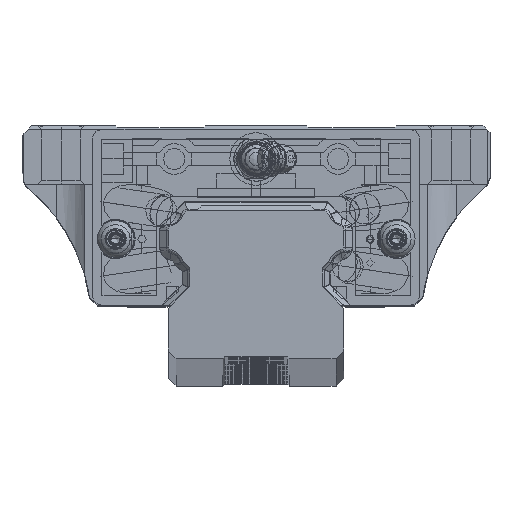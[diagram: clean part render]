
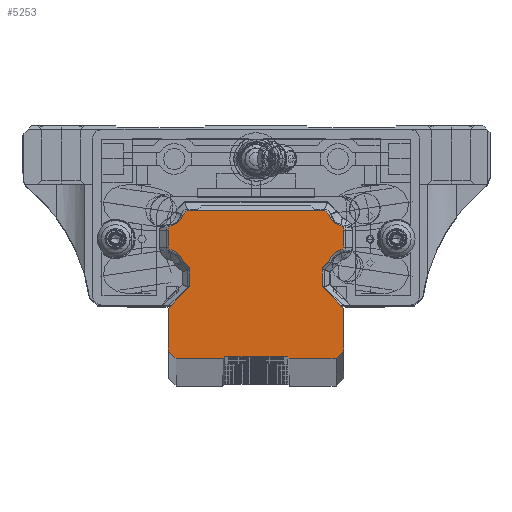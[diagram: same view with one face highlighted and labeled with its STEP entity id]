
A CAD part, top view. The second image highlights one B-rep face of the part: STEP entity #5253.
In plain terms, the highlighted planar face has unit normal (0, 0, 1).
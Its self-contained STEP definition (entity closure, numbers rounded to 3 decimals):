
#9=DIRECTION('',(0.,-1.,0.));
#10=VECTOR('',#9,4.85);
#11=CARTESIAN_POINT('',(-17.,-7.65,500.));
#12=LINE('',#11,#10);
#21=DIRECTION('',(0.,-1.,0.));
#22=VECTOR('',#21,11.);
#23=CARTESIAN_POINT('',(-22.5,-18.,500.));
#24=LINE('',#23,#22);
#33=DIRECTION('',(1.,0.,0.));
#34=VECTOR('',#33,12.);
#35=CARTESIAN_POINT('',(-20.5,-31.,500.));
#36=LINE('',#35,#34);
#1409=DIRECTION('',(0.,-1.,0.));
#1410=VECTOR('',#1409,3.955);
#1411=CARTESIAN_POINT('',(-22.5,1.977,500.));
#1412=LINE('',#1411,#1410);
#1545=DIRECTION('',(-0.707,0.707,0.));
#1546=VECTOR('',#1545,2.29);
#1547=CARTESIAN_POINT('',(-17.,-7.65,500.));
#1548=LINE('',#1547,#1546);
#1549=CARTESIAN_POINT('',(-22.664,-7.164,500.));
#1550=DIRECTION('',(0.,0.,1.));
#1551=DIRECTION('',(0.963,0.27,0.));
#1552=AXIS2_PLACEMENT_3D('',#1549,#1550,#1551);
#1554=CARTESIAN_POINT('',(-21.35,-1.977,500.));
#1555=DIRECTION('',(0.,0.,-1.));
#1556=DIRECTION('',(-0.246,-0.969,0.));
#1557=AXIS2_PLACEMENT_3D('',#1554,#1555,#1556);
#1559=CARTESIAN_POINT('',(-21.35,1.977,500.));
#1560=DIRECTION('',(0.,0.,-1.));
#1561=DIRECTION('',(-1.,0.,0.));
#1562=AXIS2_PLACEMENT_3D('',#1559,#1560,#1561);
#1564=CARTESIAN_POINT('',(-22.664,7.164,500.));
#1565=DIRECTION('',(0.,0.,1.));
#1566=DIRECTION('',(0.246,-0.969,0.));
#1567=AXIS2_PLACEMENT_3D('',#1564,#1565,#1566);
#1569=DIRECTION('',(0.707,0.707,0.));
#1570=VECTOR('',#1569,1.371);
#1571=CARTESIAN_POINT('',(-18.619,6.031,500.));
#1572=LINE('',#1571,#1570);
#1573=DIRECTION('',(1.,0.,0.));
#1574=VECTOR('',#1573,35.3);
#1575=CARTESIAN_POINT('',(-17.65,7.,500.));
#1576=LINE('',#1575,#1574);
#1577=DIRECTION('',(0.707,-0.707,0.));
#1578=VECTOR('',#1577,1.371);
#1579=CARTESIAN_POINT('',(17.65,7.,500.));
#1580=LINE('',#1579,#1578);
#1581=CARTESIAN_POINT('',(22.664,7.164,500.));
#1582=DIRECTION('',(0.,0.,1.));
#1583=DIRECTION('',(-0.963,-0.27,0.));
#1584=AXIS2_PLACEMENT_3D('',#1581,#1582,#1583);
#1586=CARTESIAN_POINT('',(21.35,1.977,500.));
#1587=DIRECTION('',(0.,0.,-1.));
#1588=DIRECTION('',(0.246,0.969,0.));
#1589=AXIS2_PLACEMENT_3D('',#1586,#1587,#1588);
#1591=CARTESIAN_POINT('',(21.35,-1.977,500.));
#1592=DIRECTION('',(0.,0.,-1.));
#1593=DIRECTION('',(1.,0.,0.));
#1594=AXIS2_PLACEMENT_3D('',#1591,#1592,#1593);
#1596=CARTESIAN_POINT('',(22.664,-7.164,500.));
#1597=DIRECTION('',(0.,0.,1.));
#1598=DIRECTION('',(-0.246,0.969,0.));
#1599=AXIS2_PLACEMENT_3D('',#1596,#1597,#1598);
#1601=DIRECTION('',(-0.707,-0.707,0.));
#1602=VECTOR('',#1601,2.29);
#1603=CARTESIAN_POINT('',(18.619,-6.031,500.));
#1604=LINE('',#1603,#1602);
#1605=DIRECTION('',(0.707,-0.707,0.));
#1606=VECTOR('',#1605,7.778);
#1607=CARTESIAN_POINT('',(17.,-12.5,500.));
#1608=LINE('',#1607,#1606);
#1609=DIRECTION('',(-0.707,-0.707,0.));
#1610=VECTOR('',#1609,2.828);
#1611=CARTESIAN_POINT('',(22.5,-29.,500.));
#1612=LINE('',#1611,#1610);
#1613=DIRECTION('',(-0.707,0.707,0.));
#1614=VECTOR('',#1613,0.707);
#1615=CARTESIAN_POINT('',(8.5,-31.,500.));
#1616=LINE('',#1615,#1614);
#1617=DIRECTION('',(-1.,0.,0.));
#1618=VECTOR('',#1617,16.);
#1619=CARTESIAN_POINT('',(8.,-30.5,500.));
#1620=LINE('',#1619,#1618);
#1621=DIRECTION('',(-0.707,-0.707,0.));
#1622=VECTOR('',#1621,0.707);
#1623=CARTESIAN_POINT('',(-8.,-30.5,500.));
#1624=LINE('',#1623,#1622);
#1625=DIRECTION('',(-0.707,0.707,0.));
#1626=VECTOR('',#1625,2.828);
#1627=CARTESIAN_POINT('',(-20.5,-31.,500.));
#1628=LINE('',#1627,#1626);
#1629=DIRECTION('',(0.707,0.707,0.));
#1630=VECTOR('',#1629,7.778);
#1631=CARTESIAN_POINT('',(-22.5,-18.,500.));
#1632=LINE('',#1631,#1630);
#1649=DIRECTION('',(0.,1.,0.));
#1650=VECTOR('',#1649,3.955);
#1651=CARTESIAN_POINT('',(22.5,-1.977,500.));
#1652=LINE('',#1651,#1650);
#1669=DIRECTION('',(0.,1.,0.));
#1670=VECTOR('',#1669,4.85);
#1671=CARTESIAN_POINT('',(17.,-12.5,500.));
#1672=LINE('',#1671,#1670);
#1681=DIRECTION('',(0.,1.,0.));
#1682=VECTOR('',#1681,11.);
#1683=CARTESIAN_POINT('',(22.5,-29.,500.));
#1684=LINE('',#1683,#1682);
#1693=DIRECTION('',(1.,0.,0.));
#1694=VECTOR('',#1693,12.);
#1695=CARTESIAN_POINT('',(8.5,-31.,500.));
#1696=LINE('',#1695,#1694);
#2705=CARTESIAN_POINT('',(-17.,-7.65,500.));
#2706=CARTESIAN_POINT('',(-18.619,-6.031,500.));
#2707=VERTEX_POINT('',#2705);
#2708=VERTEX_POINT('',#2706);
#2709=CARTESIAN_POINT('',(-21.632,-3.092,500.));
#2710=VERTEX_POINT('',#2709);
#2711=CARTESIAN_POINT('',(-22.5,-1.977,500.));
#2712=VERTEX_POINT('',#2711);
#2713=CARTESIAN_POINT('',(-22.5,1.977,500.));
#2714=VERTEX_POINT('',#2713);
#2715=CARTESIAN_POINT('',(-21.632,3.092,500.));
#2716=VERTEX_POINT('',#2715);
#2717=CARTESIAN_POINT('',(-18.619,6.031,500.));
#2718=VERTEX_POINT('',#2717);
#2719=CARTESIAN_POINT('',(-17.65,7.,500.));
#2720=VERTEX_POINT('',#2719);
#2721=CARTESIAN_POINT('',(17.65,7.,500.));
#2722=VERTEX_POINT('',#2721);
#2763=CARTESIAN_POINT('',(18.619,6.031,500.));
#2764=VERTEX_POINT('',#2763);
#2765=CARTESIAN_POINT('',(21.632,3.092,500.));
#2766=VERTEX_POINT('',#2765);
#2767=CARTESIAN_POINT('',(22.5,1.977,500.));
#2768=VERTEX_POINT('',#2767);
#2769=CARTESIAN_POINT('',(22.5,-1.977,500.));
#2770=VERTEX_POINT('',#2769);
#2771=CARTESIAN_POINT('',(21.632,-3.092,500.));
#2772=VERTEX_POINT('',#2771);
#2773=CARTESIAN_POINT('',(18.619,-6.031,500.));
#2774=VERTEX_POINT('',#2773);
#2775=CARTESIAN_POINT('',(17.,-7.65,500.));
#2776=VERTEX_POINT('',#2775);
#2777=CARTESIAN_POINT('',(17.,-12.5,500.));
#2778=VERTEX_POINT('',#2777);
#2779=CARTESIAN_POINT('',(22.5,-18.,500.));
#2780=VERTEX_POINT('',#2779);
#2781=CARTESIAN_POINT('',(22.5,-29.,500.));
#2782=VERTEX_POINT('',#2781);
#2783=CARTESIAN_POINT('',(20.5,-31.,500.));
#2784=VERTEX_POINT('',#2783);
#2785=CARTESIAN_POINT('',(8.5,-31.,500.));
#2786=VERTEX_POINT('',#2785);
#2787=CARTESIAN_POINT('',(8.,-30.5,500.));
#2788=VERTEX_POINT('',#2787);
#2789=CARTESIAN_POINT('',(-8.,-30.5,500.));
#2790=VERTEX_POINT('',#2789);
#2831=CARTESIAN_POINT('',(-8.5,-31.,500.));
#2832=VERTEX_POINT('',#2831);
#2833=CARTESIAN_POINT('',(-20.5,-31.,500.));
#2834=VERTEX_POINT('',#2833);
#2835=CARTESIAN_POINT('',(-22.5,-29.,500.));
#2836=VERTEX_POINT('',#2835);
#2837=CARTESIAN_POINT('',(-22.5,-18.,500.));
#2838=VERTEX_POINT('',#2837);
#2839=CARTESIAN_POINT('',(-17.,-12.5,500.));
#2840=VERTEX_POINT('',#2839);
#5206=CARTESIAN_POINT('',(0.,0.,500.));
#5207=DIRECTION('',(0.,0.,1.));
#5208=DIRECTION('',(1.,0.,0.));
#5209=AXIS2_PLACEMENT_3D('',#5206,#5207,#5208);
#5210=PLANE('',#5209);
#5211=ORIENTED_EDGE('',*,*,#3436,.T.);
#5212=ORIENTED_EDGE('',*,*,#5110,.T.);
#5213=ORIENTED_EDGE('',*,*,#5096,.T.);
#5214=ORIENTED_EDGE('',*,*,#5081,.F.);
#5215=ORIENTED_EDGE('',*,*,#5066,.T.);
#5216=ORIENTED_EDGE('',*,*,#5051,.T.);
#5217=ORIENTED_EDGE('',*,*,#5036,.T.);
#5218=ORIENTED_EDGE('',*,*,#4152,.T.);
#5220=ORIENTED_EDGE('',*,*,#5219,.T.);
#5222=ORIENTED_EDGE('',*,*,#5221,.T.);
#5224=ORIENTED_EDGE('',*,*,#5223,.T.);
#5226=ORIENTED_EDGE('',*,*,#5225,.F.);
#5228=ORIENTED_EDGE('',*,*,#5227,.T.);
#5230=ORIENTED_EDGE('',*,*,#5229,.T.);
#5232=ORIENTED_EDGE('',*,*,#5231,.T.);
#5234=ORIENTED_EDGE('',*,*,#5233,.F.);
#5236=ORIENTED_EDGE('',*,*,#5235,.T.);
#5238=ORIENTED_EDGE('',*,*,#5237,.F.);
#5240=ORIENTED_EDGE('',*,*,#5239,.T.);
#5242=ORIENTED_EDGE('',*,*,#5241,.F.);
#5243=ORIENTED_EDGE('',*,*,#5197,.T.);
#5244=ORIENTED_EDGE('',*,*,#3595,.T.);
#5245=ORIENTED_EDGE('',*,*,#3528,.T.);
#5246=ORIENTED_EDGE('',*,*,#3511,.F.);
#5247=ORIENTED_EDGE('',*,*,#3496,.T.);
#5248=ORIENTED_EDGE('',*,*,#3481,.F.);
#5249=ORIENTED_EDGE('',*,*,#3466,.T.);
#5250=ORIENTED_EDGE('',*,*,#3451,.F.);
#5251=EDGE_LOOP('',(#5211,#5212,#5213,#5214,#5215,#5216,#5217,#5218,#5220,#5222,
#5224,#5226,#5228,#5230,#5232,#5234,#5236,#5238,#5240,#5242,#5243,#5244,#5245,
#5246,#5247,#5248,#5249,#5250));
#5252=FACE_OUTER_BOUND('',#5251,.F.);
#5253=ADVANCED_FACE('',(#5252),#5210,.T.);
#1553=CIRCLE('',#1552,4.2);
#1558=CIRCLE('',#1557,1.15);
#1563=CIRCLE('',#1562,1.15);
#1568=CIRCLE('',#1567,4.2);
#1585=CIRCLE('',#1584,4.2);
#1590=CIRCLE('',#1589,1.15);
#1595=CIRCLE('',#1594,1.15);
#1600=CIRCLE('',#1599,4.2);
#3436=EDGE_CURVE('',#2707,#2708,#1548,.T.);
#3451=EDGE_CURVE('',#2707,#2840,#12,.T.);
#3466=EDGE_CURVE('',#2838,#2840,#1632,.T.);
#3481=EDGE_CURVE('',#2838,#2836,#24,.T.);
#3496=EDGE_CURVE('',#2834,#2836,#1628,.T.);
#3511=EDGE_CURVE('',#2834,#2832,#36,.T.);
#3528=EDGE_CURVE('',#2790,#2832,#1624,.T.);
#3595=EDGE_CURVE('',#2788,#2790,#1620,.T.);
#4152=EDGE_CURVE('',#2720,#2722,#1576,.T.);
#5036=EDGE_CURVE('',#2718,#2720,#1572,.T.);
#5051=EDGE_CURVE('',#2716,#2718,#1568,.T.);
#5066=EDGE_CURVE('',#2714,#2716,#1563,.T.);
#5081=EDGE_CURVE('',#2714,#2712,#1412,.T.);
#5096=EDGE_CURVE('',#2710,#2712,#1558,.T.);
#5110=EDGE_CURVE('',#2708,#2710,#1553,.T.);
#5197=EDGE_CURVE('',#2786,#2788,#1616,.T.);
#5219=EDGE_CURVE('',#2722,#2764,#1580,.T.);
#5221=EDGE_CURVE('',#2764,#2766,#1585,.T.);
#5223=EDGE_CURVE('',#2766,#2768,#1590,.T.);
#5225=EDGE_CURVE('',#2770,#2768,#1652,.T.);
#5227=EDGE_CURVE('',#2770,#2772,#1595,.T.);
#5229=EDGE_CURVE('',#2772,#2774,#1600,.T.);
#5231=EDGE_CURVE('',#2774,#2776,#1604,.T.);
#5233=EDGE_CURVE('',#2778,#2776,#1672,.T.);
#5235=EDGE_CURVE('',#2778,#2780,#1608,.T.);
#5237=EDGE_CURVE('',#2782,#2780,#1684,.T.);
#5239=EDGE_CURVE('',#2782,#2784,#1612,.T.);
#5241=EDGE_CURVE('',#2786,#2784,#1696,.T.);
